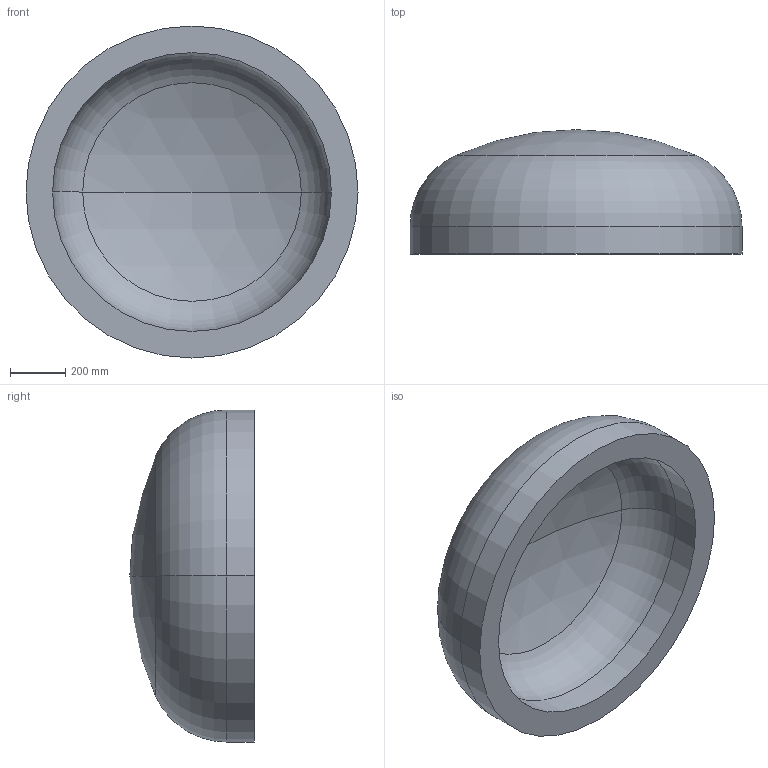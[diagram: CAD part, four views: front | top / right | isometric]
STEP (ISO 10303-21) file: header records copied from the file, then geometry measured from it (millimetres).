
FILE_DESCRIPTION (( 'STEP AP203' ), '1' );
FILE_NAME ('DIN 28013 Korbbogenform_-_Boden DIN 28013 - 1200 x 100 - I - s=96.step', '2016-07-01T09:37:12', ( '' ), ( '' ), 'SwSTEP 2.0', 'SolidWorks 2013', '' );
FILE_SCHEMA (( 'CONFIG_CONTROL_DESIGN' ));
Length unit declared in the file: millimetre
Products named in the file (1): DIN 28013 Korbbogenform_-_Boden DIN 28013 - 1200 x 100 - I - s=96
Bounding box: 1200 x 449.7 x 1200 mm (x, y, z)
Volume: 169333070.2 mm3; surface area: 3880032.1 mm2
Topology: 1 solids, 1 shells, 13 faces, 24 edges, 14 vertices
Faces by surface type: torus 4, cylinder 4, sphere 4, plane 1
Entity records: 407 total; most frequent: DIRECTION 72, CARTESIAN_POINT 52, ORIENTED_EDGE 48, AXIS2_PLACEMENT_3D 34, EDGE_CURVE 24, CIRCLE 20, EDGE_LOOP 14, VERTEX_POINT 14
